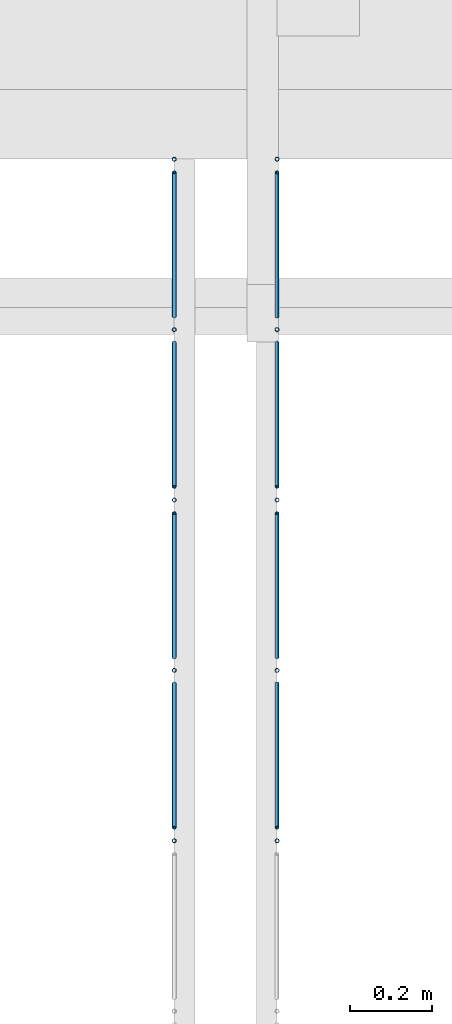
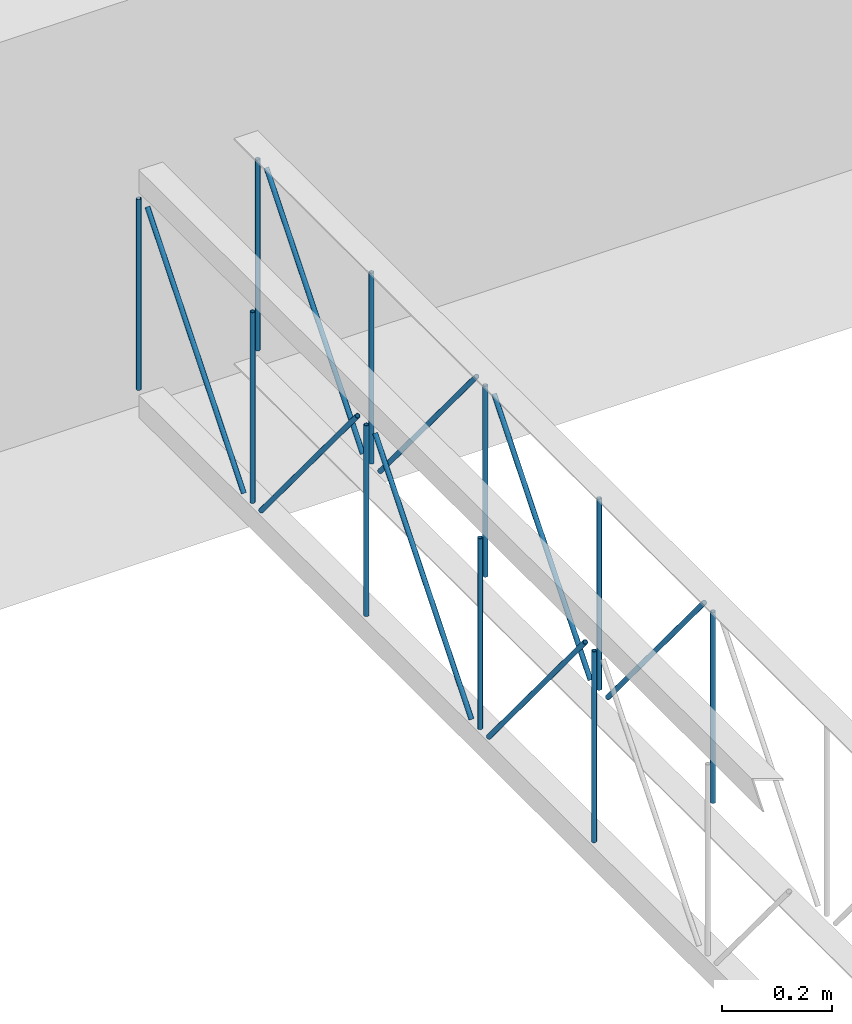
# One storey, part 92 of 153: 18 members, 2 elements without a shape of their own.
"""IFC4 building model written with IfcOpenShell, lengths in metres."""

import ifcopenshell
import ifcopenshell.guid

model = None  # the IFC model being written
_history = None  # IfcOwnerHistory: only IFC2X3 demands one
_inside = {}  # id of a spatial element -> (the spatial element, [elements in it])
_under = {}  # id of a project, library or spatial element -> (it, [spatial elements below it])
_declared = {}  # id of a project -> (the project, [libraries it declares])
_typed = {}  # id of a type object -> (the type object, [elements of that type])
_made_of = {}  # id of a material, layer set ... -> (it, [elements and type objects made of it])


def new_model(schema):
    """Start an empty IFC model of exactly this schema.

    Asked for "IFC4X3", IfcOpenShell would pick the latest addendum, in which some entities
    have other attributes; the version numbers below select the first issue.
    IFC2X3 requires an IfcOwnerHistory on every rooted entity: one is made here for all.
    """
    global model, _history
    if schema == "IFC4X3":
        model = ifcopenshell.file(schema_version=(4, 3, 0, 0))
    else:
        model = ifcopenshell.file(schema=schema)
    _inside.clear()
    _under.clear()
    _declared.clear()
    _typed.clear()
    _made_of.clear()
    _history = None
    if model.schema == "IFC2X3":
        org = make("IfcOrganization", Name="unknown")
        user = make(
            "IfcPersonAndOrganization",
            ThePerson=make("IfcPerson", FamilyName="unknown"),
            TheOrganization=org,
        )
        app = make(
            "IfcApplication",
            ApplicationDeveloper=org,
            Version="unknown",
            ApplicationFullName="unknown",
            ApplicationIdentifier="unknown",
        )
        _history = make(
            "IfcOwnerHistory",
            OwningUser=user,
            OwningApplication=app,
            ChangeAction="ADDED",
            CreationDate=0,
        )
    return model


def make(cls, **values):
    """One entity of the class cls with the attributes given. An attribute that is None is left unset."""
    return model.create_entity(
        cls, **{name: value for name, value in values.items() if value is not None}
    )


def entity(cls, *values):
    """Any entity or typed value of the class cls, its attributes in the order of the schema. None: left unset."""
    e = model.create_entity(cls)
    for i, value in enumerate(values):
        if value is not None:
            e[i] = value
    return e


def rooted(cls, **values):
    """An entity with a GlobalId (a new one), such as an element, a storey or a relation."""
    return make(cls, GlobalId=ifcopenshell.guid.new(), OwnerHistory=_history, **values)


def si_unit(unit_type, name, prefix=None):
    """IfcSIUnit, for example si_unit("LENGTHUNIT", "METRE", prefix="MILLI")."""
    return make("IfcSIUnit", UnitType=unit_type, Prefix=prefix, Name=name)


def converted_unit(unit_type, name, factor, base, dimensions=None, offset=None):
    """IfcConversionBasedUnit, such as the inch: factor (a typed value) times the base unit."""
    return make(
        "IfcConversionBasedUnit"
        if offset is None
        else "IfcConversionBasedUnitWithOffset",
        ConversionOffset=offset,
        Dimensions=None
        if dimensions is None
        else entity("IfcDimensionalExponents", *dimensions),
        UnitType=unit_type,
        Name=name,
        ConversionFactor=make(
            "IfcMeasureWithUnit", ValueComponent=factor, UnitComponent=base
        ),
    )


def derived_unit(unit_type, elements):
    """IfcDerivedUnit: a product of units, each with its exponent."""
    return make(
        "IfcDerivedUnit",
        Elements=[
            make("IfcDerivedUnitElement", Unit=unit, Exponent=power)
            for unit, power in elements
        ],
        UnitType=unit_type,
    )


def assignment(units):
    """IfcUnitAssignment: the units of a project."""
    return None if units is None else make("IfcUnitAssignment", Units=units)


def point(xyz):
    """IfcCartesianPoint."""
    return None if xyz is None else make("IfcCartesianPoint", Coordinates=xyz)


def direction(xyz):
    """IfcDirection."""
    return None if xyz is None else make("IfcDirection", DirectionRatios=xyz)


def frame(location, z_axis=None, x_axis=None):
    """IfcAxis2Placement3D, a coordinate frame: its origin and axes. An axis left out is left unset."""
    return make(
        "IfcAxis2Placement3D",
        Location=point(location),
        Axis=direction(z_axis),
        RefDirection=direction(x_axis),
    )


def origin():
    """The frame at (0, 0, 0) with its axes left unset."""
    return frame((0.0, 0.0, 0.0))


def place(relative_to, where):
    """IfcLocalPlacement: puts the frame where relative to a parent placement (None: the world)."""
    return make(
        "IfcLocalPlacement", PlacementRelTo=relative_to, RelativePlacement=where
    )


def context(
    kind, dimensions, precision=None, world=None, true_north=None, identifier=None
):
    """IfcGeometricRepresentationContext, for example the 3D "Model" context."""
    return make(
        "IfcGeometricRepresentationContext",
        ContextIdentifier=identifier,
        ContextType=kind,
        CoordinateSpaceDimension=dimensions,
        Precision=precision,
        WorldCoordinateSystem=world,
        TrueNorth=true_north,
    )


def subcontext(parent, identifier, kind, view, scale=None):
    """IfcGeometricRepresentationSubContext, for example "Body" below "Model"."""
    return make(
        "IfcGeometricRepresentationSubContext",
        ContextIdentifier=identifier,
        ContextType=kind,
        ParentContext=parent,
        TargetScale=scale,
        TargetView=view,
    )


def project(units=None, contexts=None):
    """IfcProject with its units and contexts."""
    return rooted(
        "IfcProject",
        Name="project",
        RepresentationContexts=contexts,
        UnitsInContext=assignment(units),
    )


def spatial(cls, under=None, at=None, **own):
    """A site, building, storey or space (cls), placed at a placement, below another one or the project."""
    s = rooted(cls, ObjectPlacement=at, **own)
    if under is not None:
        _under.setdefault(under.id(), (under, []))[1].append(s)
    return s


def point_list(points):
    """IfcCartesianPointList2D or 3D."""
    cls = (
        "IfcCartesianPointList2D" if len(points[0]) == 2 else "IfcCartesianPointList3D"
    )
    return make(cls, CoordList=points)


def arc(*indices):
    """IfcArcIndex: an arc through three numbered points of an indexed curve."""
    return model.create_entity("IfcArcIndex", indices)


def indexed_curve(points, segments=None, self_intersect=None):
    """IfcIndexedPolyCurve: lines and arcs through numbered points (the first is 1)."""
    return make(
        "IfcIndexedPolyCurve",
        Points=point_list(points),
        Segments=segments,
        SelfIntersect=self_intersect,
    )


def outline(outer, holes=None, kind="AREA"):
    """IfcArbitraryClosedProfileDef: a profile drawn as a closed curve; with holes, ...WithVoids."""
    if holes is None:
        return make("IfcArbitraryClosedProfileDef", ProfileType=kind, OuterCurve=outer)
    return make(
        "IfcArbitraryProfileDefWithVoids",
        ProfileType=kind,
        OuterCurve=outer,
        InnerCurves=holes,
    )


def extrude(swept, where, along, depth):
    """IfcExtrudedAreaSolid: the profile swept, set in the frame where, extruded along a direction by depth."""
    return make(
        "IfcExtrudedAreaSolid",
        SweptArea=swept,
        Position=where,
        ExtrudedDirection=direction(along),
        Depth=depth,
    )


def shape(context_of_items, identifier, shape_type, items):
    """IfcShapeRepresentation: the items that make up one representation, for example the "Body"."""
    return make(
        "IfcShapeRepresentation",
        ContextOfItems=context_of_items,
        RepresentationIdentifier=identifier,
        RepresentationType=shape_type,
        Items=items,
    )


def source(mapping_origin, context_of_items, identifier, shape_type, items):
    """IfcRepresentationMap: a shape defined once, which mapped items show again and again."""
    return make(
        "IfcRepresentationMap",
        MappingOrigin=mapping_origin,
        MappedRepresentation=shape(context_of_items, identifier, shape_type, items),
    )


def transform(
    local_origin,
    x_axis=None,
    y_axis=None,
    z_axis=None,
    scale=None,
    scale2=None,
    scale3=None,
    uniform=True,
):
    """IfcCartesianTransformationOperator3D, or its non-uniform kind. x_axis, y_axis, z_axis: its Axis1, 2, 3."""
    if uniform:
        return make(
            "IfcCartesianTransformationOperator3D",
            Axis1=direction(x_axis),
            Axis2=direction(y_axis),
            LocalOrigin=point(local_origin),
            Scale=scale,
            Axis3=direction(z_axis),
        )
    return make(
        "IfcCartesianTransformationOperator3DnonUniform",
        Axis1=direction(x_axis),
        Axis2=direction(y_axis),
        LocalOrigin=point(local_origin),
        Scale=scale,
        Axis3=direction(z_axis),
        Scale2=scale2,
        Scale3=scale3,
    )


def mapped(mapping_source, mapping_target):
    """IfcMappedItem: shows the shape of a source again, moved by a transform."""
    return make(
        "IfcMappedItem", MappingSource=mapping_source, MappingTarget=mapping_target
    )


def material(Name=None, Category=None):
    """IfcMaterial."""
    return make("IfcMaterial", Name=Name, Category=Category)


def made_of(thing, what):
    """Note that an element or type object is made of a material, layer set ...; save() writes the relation."""
    if what is not None:
        _made_of.setdefault(what.id(), (what, []))[1].append(thing)
    return thing


def type_object(cls, material=None, **own):
    """A type object (cls), such as IfcWallType, which elements share."""
    return made_of(rooted(cls, **own), material)


def type_shapes(of_type, sources):
    """Give a type object the sources (RepresentationMaps) that its elements show as mapped items."""
    of_type.RepresentationMaps = sources


def element(
    cls,
    number,
    at=None,
    inside=None,
    cuts=None,
    type_object=None,
    material=None,
    context=None,
    identifier="Body",
    shape_type=None,
    held_by="IfcProductDefinitionShape",
    body=None,
    shapes=None,
    **own,
):
    """One element of the class cls, such as IfcWall. Its Tag is "e" and its number.

    at: its placement. inside: the storey or other place that contains it. cuts: it is an
    opening in that element (IfcRelVoidsElement). A single representation is given by context,
    identifier, shape_type and body (its items); several are given by shapes. held_by: the class
    of the entity that holds the representations. save() writes the other relations.
    """
    e = rooted(cls, Tag="e%d" % number, ObjectPlacement=at, **own)
    if body is not None:
        shapes = [shape(context, identifier, shape_type, body)]
    if shapes is not None:
        e.Representation = make(held_by, Representations=shapes)
    if inside is not None:
        _inside.setdefault(inside.id(), (inside, []))[1].append(e)
    if cuts is not None:
        rooted(
            "IfcRelVoidsElement", RelatingBuildingElement=cuts, RelatedOpeningElement=e
        )
    if type_object is not None:
        _typed.setdefault(type_object.id(), (type_object, []))[1].append(e)
    return made_of(e, material)


def aggregate(whole, parts):
    """IfcRelAggregates: a whole, such as a stair, and the parts it consists of."""
    return rooted("IfcRelAggregates", RelatingObject=whole, RelatedObjects=parts)


def save(model, path):
    """Write the relations noted so far, then the file.

    IfcRelAggregates (storeys below a building ...), IfcRelContainedInSpatialStructure (elements
    in a storey), IfcRelDefinesByType, IfcRelAssociatesMaterial and IfcRelDeclares: one each for
    every whole, place, type object, material and project.
    """
    for whole, parts in _under.values():
        aggregate(whole, parts)
    for where, things in _inside.values():
        rooted(
            "IfcRelContainedInSpatialStructure",
            RelatedElements=things,
            RelatingStructure=where,
        )
    for kind, things in _typed.values():
        rooted("IfcRelDefinesByType", RelatedObjects=things, RelatingType=kind)
    for what, things in _made_of.values():
        rooted("IfcRelAssociatesMaterial", RelatedObjects=things, RelatingMaterial=what)
    for by, libraries in _declared.values():
        rooted("IfcRelDeclares", RelatingContext=by, RelatedDefinitions=libraries)
    model.write(path)


model = new_model("IFC4")

# Units and contexts
model_context = context("Model", 3, precision=1e-05, world=origin(), true_north=direction((6.123031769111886e-17, 1.0)))
body_context = subcontext(model_context, "Body", "Model", "MODEL_VIEW")
ifc_project = project(units=[si_unit("LENGTHUNIT", "METRE"), si_unit("AREAUNIT", "SQUARE_METRE"), si_unit("VOLUMEUNIT", "CUBIC_METRE"), converted_unit("PLANEANGLEUNIT", "DEGREE", entity("IfcRatioMeasure", 0.017453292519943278), si_unit("PLANEANGLEUNIT", "RADIAN"), dimensions=[0, 0, 0, 0, 0, 0, 0]), si_unit("MASSUNIT", "GRAM", prefix="KILO"), derived_unit("MASSDENSITYUNIT", [(si_unit("MASSUNIT", "GRAM", prefix="KILO"), 1), (si_unit("LENGTHUNIT", "METRE"), -3)]), derived_unit("MOMENTOFINERTIAUNIT", [(si_unit("LENGTHUNIT", "METRE"), 4)]), si_unit("TIMEUNIT", "SECOND"), si_unit("FREQUENCYUNIT", "HERTZ"), si_unit("THERMODYNAMICTEMPERATUREUNIT", "DEGREE_CELSIUS"), derived_unit("THERMALTRANSMITTANCEUNIT", [(si_unit("MASSUNIT", "GRAM", prefix="KILO"), 1), (si_unit("THERMODYNAMICTEMPERATUREUNIT", "KELVIN"), -1), (si_unit("TIMEUNIT", "SECOND"), -3)]), derived_unit("VOLUMETRICFLOWRATEUNIT", [(si_unit("LENGTHUNIT", "METRE"), 3), (si_unit("TIMEUNIT", "SECOND"), -1)]), derived_unit("MASSFLOWRATEUNIT", [(si_unit("MASSUNIT", "GRAM", prefix="KILO"), 1), (si_unit("TIMEUNIT", "SECOND"), -1)]), derived_unit("ROTATIONALFREQUENCYUNIT", [(si_unit("TIMEUNIT", "SECOND"), -1)]), si_unit("ELECTRICCURRENTUNIT", "AMPERE"), si_unit("ELECTRICVOLTAGEUNIT", "VOLT"), si_unit("POWERUNIT", "WATT"), si_unit("FORCEUNIT", "NEWTON", prefix="KILO"), si_unit("ILLUMINANCEUNIT", "LUX"), si_unit("LUMINOUSFLUXUNIT", "LUMEN"), si_unit("LUMINOUSINTENSITYUNIT", "CANDELA"), derived_unit("USERDEFINED", [(si_unit("MASSUNIT", "GRAM", prefix="KILO"), -1), (si_unit("LENGTHUNIT", "METRE"), -2), (si_unit("TIMEUNIT", "SECOND"), 3), (si_unit("LUMINOUSFLUXUNIT", "LUMEN"), 1)]), derived_unit("SOUNDPOWERUNIT", [(si_unit("MASSUNIT", "GRAM", prefix="KILO"), 1), (si_unit("LENGTHUNIT", "METRE"), 2), (si_unit("TIMEUNIT", "SECOND"), -3)]), derived_unit("SOUNDPRESSUREUNIT", [(si_unit("MASSUNIT", "GRAM", prefix="KILO"), 1), (si_unit("LENGTHUNIT", "METRE"), -1), (si_unit("TIMEUNIT", "SECOND"), -2)]), derived_unit("LINEARVELOCITYUNIT", [(si_unit("LENGTHUNIT", "METRE"), 1), (si_unit("TIMEUNIT", "SECOND"), -1)]), si_unit("PRESSUREUNIT", "PASCAL"), derived_unit("USERDEFINED", [(si_unit("LENGTHUNIT", "METRE"), -2), (si_unit("MASSUNIT", "GRAM", prefix="KILO"), 1), (si_unit("TIMEUNIT", "SECOND"), -2)]), derived_unit("LINEARFORCEUNIT", [(si_unit("MASSUNIT", "GRAM", prefix="KILO"), 1), (si_unit("LENGTHUNIT", "METRE"), 1), (si_unit("TIMEUNIT", "SECOND"), -2), (si_unit("LENGTHUNIT", "METRE"), -1)]), derived_unit("PLANARFORCEUNIT", [(si_unit("MASSUNIT", "GRAM", prefix="KILO"), 1), (si_unit("LENGTHUNIT", "METRE"), 1), (si_unit("TIMEUNIT", "SECOND"), -2), (si_unit("LENGTHUNIT", "METRE"), -2)])], contexts=[model_context])

# Site, building, storey
site_placement = place(None, origin())
site = spatial("IfcSite", under=ifc_project, at=site_placement, Name="Superficie", CompositionType="ELEMENT")
building_placement = place(site_placement, origin())
building = spatial("IfcBuilding", under=site, at=building_placement, CompositionType="ELEMENT")
storey_placement = place(building_placement, frame((0.0, 0.0, 3.5999999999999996)))
storey = spatial("IfcBuildingStorey", under=building, at=storey_placement, Name="Nivel 1", CompositionType="ELEMENT", Elevation=3.5999999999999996)

# Assembly, members
assembly_1_placement = place(storey_placement, origin())
assembly_1 = element("IfcElementAssembly", 1, at=assembly_1_placement, inside=storey, Name="Viga de celosia 13:Viga de celosia 13", ObjectType="Viga de celosia 13:Viga de celosia 13", AssemblyPlace="NOTDEFINED", PredefinedType="TRUSS")
ifc_material = material(Name="Metal - Calibre delgado", Category="Metal")
member_type_1 = type_object("IfcMemberType", Name="HSS-Tubo estructural redondo:HSS 0.01", PredefinedType="BRACE", material=ifc_material)
shared_shape_1 = source(origin(), body_context, "Body", "SweptSolid", [
    extrude(outline(indexed_curve([(-0.005000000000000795, 7.502054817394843e-18), (-9.800269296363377e-18, -0.005000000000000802), (0.005000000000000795, -7.502054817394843e-18), (8.07772287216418e-18, 0.005000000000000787)], segments=[arc(1, 2, 3), arc(3, 4, 1)], self_intersect=False), holes=[indexed_curve([(0.003999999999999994, 7.222511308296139e-17), (6.910645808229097e-17, -0.004000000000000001), (-0.003999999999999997, -1.8650054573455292e-17), (-2.9156497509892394e-17, 0.003999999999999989)], segments=[arc(1, 2, 3), arc(3, 4, 1)], self_intersect=False)]), frame((-0.21200000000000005, 0.0, 0.0), z_axis=(1.0, 0.0, 0.0), x_axis=(0.0, 1.0, 0.0)), (0.0, 0.0, 1.0), 0.4240000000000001),
])
type_shapes(member_type_1, [shared_shape_1])
member_1_placement = place(assembly_1_placement, frame((5.936799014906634, -4.990991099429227, 0.25), z_axis=(0.0, 1.0, 0.0), x_axis=(0.0, 0.0, 1.0)))
member_1 = element("IfcMember", 2, at=member_1_placement, type_object=member_type_1, material=ifc_material, Name="HSS-Tubo estructural redondo:HSS 0.01", ObjectType="HSS-Tubo estructural redondo:HSS 0.01", PredefinedType="BRACE", context=body_context, shape_type="MappedRepresentation", body=[
    mapped(shared_shape_1, transform((0.0, 0.0, 0.0), scale=1.0)),
])
member_2_placement = place(assembly_1_placement, frame((5.936799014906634, -4.576645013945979, 0.25), z_axis=(0.0, 1.0, 0.0), x_axis=(0.0, 0.0, 1.0)))
member_2 = element("IfcMember", 3, at=member_2_placement, type_object=member_type_1, material=ifc_material, Name="HSS-Tubo estructural redondo:HSS 0.01", ObjectType="HSS-Tubo estructural redondo:HSS 0.01", PredefinedType="BRACE", context=body_context, shape_type="MappedRepresentation", body=[
    mapped(shared_shape_1, transform((0.0, 0.0, 0.0), scale=1.0)),
])
member_3_placement = place(assembly_1_placement, frame((5.936799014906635, -4.162298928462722, 0.25), z_axis=(0.0, 1.0, 0.0), x_axis=(0.0, 0.0, 1.0)))
member_3 = element("IfcMember", 4, at=member_3_placement, type_object=member_type_1, material=ifc_material, Name="HSS-Tubo estructural redondo:HSS 0.01", ObjectType="HSS-Tubo estructural redondo:HSS 0.01", PredefinedType="BRACE", context=body_context, shape_type="MappedRepresentation", body=[
    mapped(shared_shape_1, transform((0.0, 0.0, 0.0), scale=1.0)),
])
member_4_placement = place(assembly_1_placement, frame((5.936799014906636, -3.747952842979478, 0.25), z_axis=(0.0, 1.0, 0.0), x_axis=(0.0, 0.0, 1.0)))
member_4 = element("IfcMember", 5, at=member_4_placement, type_object=member_type_1, material=ifc_material, Name="HSS-Tubo estructural redondo:HSS 0.01", ObjectType="HSS-Tubo estructural redondo:HSS 0.01", PredefinedType="BRACE", context=body_context, shape_type="MappedRepresentation", body=[
    mapped(shared_shape_1, transform((0.0, 0.0, 0.0), scale=1.0)),
])
member_5_placement = place(assembly_1_placement, frame((5.936799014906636, -3.3336067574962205, 0.25), z_axis=(0.0, 1.0, 0.0), x_axis=(0.0, 0.0, 1.0)))
member_5 = element("IfcMember", 6, at=member_5_placement, type_object=member_type_1, material=ifc_material, Name="HSS-Tubo estructural redondo:HSS 0.01", ObjectType="HSS-Tubo estructural redondo:HSS 0.01", PredefinedType="BRACE", context=body_context, shape_type="MappedRepresentation", body=[
    mapped(shared_shape_1, transform((0.0, 0.0, 0.0), scale=1.0)),
])
member_type_2 = type_object("IfcMemberType", Name="HSS-Tubo estructural redondo:HSS 0.01", PredefinedType="BRACE", material=ifc_material)
shared_shape_2 = source(origin(), body_context, "Body", "SweptSolid", [
    extrude(outline(indexed_curve([(-0.005000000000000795, 7.502054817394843e-18), (-9.800269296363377e-18, -0.005000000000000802), (0.005000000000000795, -7.502054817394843e-18), (8.07772287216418e-18, 0.005000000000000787)], segments=[arc(1, 2, 3), arc(3, 4, 1)], self_intersect=False), holes=[indexed_curve([(0.003999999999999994, 7.222511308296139e-17), (6.910645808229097e-17, -0.004000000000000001), (-0.003999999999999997, -1.8650054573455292e-17), (-2.9156497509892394e-17, 0.003999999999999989)], segments=[arc(1, 2, 3), arc(3, 4, 1)], self_intersect=False)]), frame((-0.275, 0.0, 0.0), z_axis=(1.0, 0.0, 0.0), x_axis=(0.0, 1.0, 0.0)), (0.0, 0.0, 1.0), 0.55),
])
type_shapes(member_type_2, [shared_shape_2])
member_6_placement = place(assembly_1_placement, frame((5.936799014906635, -4.783818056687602, 0.25), z_axis=(0.0, -0.7699758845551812, -0.6380729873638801), x_axis=(0.0, 0.6380729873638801, -0.7699758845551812)))
member_6 = element("IfcMember", 7, at=member_6_placement, type_object=member_type_2, material=ifc_material, Name="HSS-Tubo estructural redondo:HSS 0.01", ObjectType="HSS-Tubo estructural redondo:HSS 0.01", PredefinedType="BRACE", context=body_context, shape_type="MappedRepresentation", body=[
    mapped(shared_shape_2, transform((0.0, 0.0, 0.0), scale=1.0)),
])
member_7_placement = place(assembly_1_placement, frame((5.936799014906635, -4.369471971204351, 0.2500000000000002), z_axis=(0.0, 0.7699758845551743, -0.6380729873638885), x_axis=(0.0, 0.6380729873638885, 0.7699758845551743)))
member_7 = element("IfcMember", 8, at=member_7_placement, type_object=member_type_2, material=ifc_material, Name="HSS-Tubo estructural redondo:HSS 0.01", ObjectType="HSS-Tubo estructural redondo:HSS 0.01", PredefinedType="BRACE", context=body_context, shape_type="MappedRepresentation", body=[
    mapped(shared_shape_2, transform((0.0, 0.0, 0.0), scale=1.0)),
])
member_8_placement = place(assembly_1_placement, frame((5.936799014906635, -3.9551258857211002, 0.24999999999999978), z_axis=(0.0, -0.7699758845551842, -0.6380729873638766), x_axis=(0.0, 0.6380729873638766, -0.7699758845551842)))
member_8 = element("IfcMember", 9, at=member_8_placement, type_object=member_type_2, material=ifc_material, Name="HSS-Tubo estructural redondo:HSS 0.01", ObjectType="HSS-Tubo estructural redondo:HSS 0.01", PredefinedType="BRACE", context=body_context, shape_type="MappedRepresentation", body=[
    mapped(shared_shape_2, transform((0.0, 0.0, 0.0), scale=1.0)),
])
member_9_placement = place(assembly_1_placement, frame((5.936799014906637, -3.540779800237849, 0.2500000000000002), z_axis=(0.0, 0.7699758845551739, -0.638072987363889), x_axis=(0.0, 0.638072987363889, 0.7699758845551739)))
member_9 = element("IfcMember", 10, at=member_9_placement, type_object=member_type_2, material=ifc_material, Name="HSS-Tubo estructural redondo:HSS 0.01", ObjectType="HSS-Tubo estructural redondo:HSS 0.01", PredefinedType="BRACE", context=body_context, shape_type="MappedRepresentation", body=[
    mapped(shared_shape_2, transform((0.0, 0.0, 0.0), scale=1.0)),
])
aggregate(assembly_1, [member_1, member_2, member_3, member_4, member_5, member_6, member_7, member_8, member_9])

assembly_2_placement = place(storey_placement, origin())
assembly_2 = element("IfcElementAssembly", 11, at=assembly_2_placement, inside=storey, Name="Viga de celosia 13:Viga de celosia 13", ObjectType="Viga de celosia 13:Viga de celosia 13", AssemblyPlace="NOTDEFINED", PredefinedType="TRUSS")
member_type_3 = type_object("IfcMemberType", Name="HSS-Tubo estructural redondo:HSS 0.01", PredefinedType="BRACE", material=ifc_material)
shared_shape_3 = source(origin(), body_context, "Body", "SweptSolid", [
    extrude(outline(indexed_curve([(-0.005000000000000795, 2.0824731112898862e-17), (-2.3122945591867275e-17, -0.005000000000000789), (0.005000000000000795, -2.08247311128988e-17), (2.14003991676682e-17, 0.005000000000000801)], segments=[arc(1, 2, 3), arc(3, 4, 1)], self_intersect=False), holes=[indexed_curve([(0.003999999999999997, -1.3094283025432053e-17), (-1.531427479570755e-18, -0.003999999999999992), (-0.004, 4.0098531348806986e-17), (4.1481388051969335e-17, 0.0039999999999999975)], segments=[arc(1, 2, 3), arc(3, 4, 1)], self_intersect=False)]), frame((-0.21200000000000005, 0.0, 0.0), z_axis=(1.0, 0.0, 0.0), x_axis=(0.0, -1.0, 0.0)), (0.0, 0.0, 1.0), 0.4240000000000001),
])
type_shapes(member_type_3, [shared_shape_3])
member_10_placement = place(assembly_2_placement, frame((6.186799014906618, -4.990991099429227, 0.25), z_axis=(0.0, 1.0, 0.0), x_axis=(0.0, 0.0, 1.0)))
member_10 = element("IfcMember", 12, at=member_10_placement, type_object=member_type_3, material=ifc_material, Name="HSS-Tubo estructural redondo:HSS 0.01", ObjectType="HSS-Tubo estructural redondo:HSS 0.01", PredefinedType="BRACE", context=body_context, shape_type="MappedRepresentation", body=[
    mapped(shared_shape_3, transform((0.0, 0.0, 0.0), scale=1.0)),
])
member_11_placement = place(assembly_2_placement, frame((6.186799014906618, -4.576645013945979, 0.25), z_axis=(0.0, 1.0, 0.0), x_axis=(0.0, 0.0, 1.0)))
member_11 = element("IfcMember", 13, at=member_11_placement, type_object=member_type_3, material=ifc_material, Name="HSS-Tubo estructural redondo:HSS 0.01", ObjectType="HSS-Tubo estructural redondo:HSS 0.01", PredefinedType="BRACE", context=body_context, shape_type="MappedRepresentation", body=[
    mapped(shared_shape_3, transform((0.0, 0.0, 0.0), scale=1.0)),
])
member_12_placement = place(assembly_2_placement, frame((6.186799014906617, -4.162298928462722, 0.25), z_axis=(0.0, 1.0, 0.0), x_axis=(0.0, 0.0, 1.0)))
member_12 = element("IfcMember", 14, at=member_12_placement, type_object=member_type_3, material=ifc_material, Name="HSS-Tubo estructural redondo:HSS 0.01", ObjectType="HSS-Tubo estructural redondo:HSS 0.01", PredefinedType="BRACE", context=body_context, shape_type="MappedRepresentation", body=[
    mapped(shared_shape_3, transform((0.0, 0.0, 0.0), scale=1.0)),
])
member_13_placement = place(assembly_2_placement, frame((6.186799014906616, -3.747952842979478, 0.25), z_axis=(0.0, 1.0, 0.0), x_axis=(0.0, 0.0, 1.0)))
member_13 = element("IfcMember", 15, at=member_13_placement, type_object=member_type_3, material=ifc_material, Name="HSS-Tubo estructural redondo:HSS 0.01", ObjectType="HSS-Tubo estructural redondo:HSS 0.01", PredefinedType="BRACE", context=body_context, shape_type="MappedRepresentation", body=[
    mapped(shared_shape_3, transform((0.0, 0.0, 0.0), scale=1.0)),
])
member_14_placement = place(assembly_2_placement, frame((6.186799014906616, -3.3336067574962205, 0.25), z_axis=(0.0, 1.0, 0.0), x_axis=(0.0, 0.0, 1.0)))
member_14 = element("IfcMember", 16, at=member_14_placement, type_object=member_type_3, material=ifc_material, Name="HSS-Tubo estructural redondo:HSS 0.01", ObjectType="HSS-Tubo estructural redondo:HSS 0.01", PredefinedType="BRACE", context=body_context, shape_type="MappedRepresentation", body=[
    mapped(shared_shape_3, transform((0.0, 0.0, 0.0), scale=1.0)),
])
member_type_4 = type_object("IfcMemberType", Name="HSS-Tubo estructural redondo:HSS 0.01", PredefinedType="BRACE", material=ifc_material)
shared_shape_4 = source(origin(), body_context, "Body", "SweptSolid", [
    extrude(outline(indexed_curve([(-0.005000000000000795, 2.0824731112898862e-17), (-2.3122945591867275e-17, -0.005000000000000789), (0.005000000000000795, -2.08247311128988e-17), (2.14003991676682e-17, 0.005000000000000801)], segments=[arc(1, 2, 3), arc(3, 4, 1)], self_intersect=False), holes=[indexed_curve([(0.003999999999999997, -1.3094283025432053e-17), (-1.531427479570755e-18, -0.003999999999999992), (-0.004, 4.0098531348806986e-17), (4.1481388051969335e-17, 0.0039999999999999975)], segments=[arc(1, 2, 3), arc(3, 4, 1)], self_intersect=False)]), frame((-0.275, 0.0, 0.0), z_axis=(1.0, 0.0, 0.0), x_axis=(0.0, -1.0, 0.0)), (0.0, 0.0, 1.0), 0.55),
])
type_shapes(member_type_4, [shared_shape_4])
member_15_placement = place(assembly_2_placement, frame((6.186799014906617, -4.783818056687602, 0.25), z_axis=(0.0, -0.7699758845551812, -0.6380729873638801), x_axis=(0.0, 0.6380729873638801, -0.7699758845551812)))
member_15 = element("IfcMember", 17, at=member_15_placement, type_object=member_type_4, material=ifc_material, Name="HSS-Tubo estructural redondo:HSS 0.01", ObjectType="HSS-Tubo estructural redondo:HSS 0.01", PredefinedType="BRACE", context=body_context, shape_type="MappedRepresentation", body=[
    mapped(shared_shape_4, transform((0.0, 0.0, 0.0), scale=1.0)),
])
member_16_placement = place(assembly_2_placement, frame((6.186799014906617, -4.369471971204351, 0.2500000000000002), z_axis=(0.0, 0.7699758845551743, -0.6380729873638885), x_axis=(0.0, 0.6380729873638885, 0.7699758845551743)))
member_16 = element("IfcMember", 18, at=member_16_placement, type_object=member_type_4, material=ifc_material, Name="HSS-Tubo estructural redondo:HSS 0.01", ObjectType="HSS-Tubo estructural redondo:HSS 0.01", PredefinedType="BRACE", context=body_context, shape_type="MappedRepresentation", body=[
    mapped(shared_shape_4, transform((0.0, 0.0, 0.0), scale=1.0)),
])
member_17_placement = place(assembly_2_placement, frame((6.186799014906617, -3.9551258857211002, 0.24999999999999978), z_axis=(0.0, -0.7699758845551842, -0.6380729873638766), x_axis=(0.0, 0.6380729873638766, -0.7699758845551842)))
member_17 = element("IfcMember", 19, at=member_17_placement, type_object=member_type_4, material=ifc_material, Name="HSS-Tubo estructural redondo:HSS 0.01", ObjectType="HSS-Tubo estructural redondo:HSS 0.01", PredefinedType="BRACE", context=body_context, shape_type="MappedRepresentation", body=[
    mapped(shared_shape_4, transform((0.0, 0.0, 0.0), scale=1.0)),
])
member_18_placement = place(assembly_2_placement, frame((6.186799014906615, -3.540779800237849, 0.2500000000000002), z_axis=(0.0, 0.7699758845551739, -0.638072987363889), x_axis=(0.0, 0.638072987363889, 0.7699758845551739)))
member_18 = element("IfcMember", 20, at=member_18_placement, type_object=member_type_4, material=ifc_material, Name="HSS-Tubo estructural redondo:HSS 0.01", ObjectType="HSS-Tubo estructural redondo:HSS 0.01", PredefinedType="BRACE", context=body_context, shape_type="MappedRepresentation", body=[
    mapped(shared_shape_4, transform((0.0, 0.0, 0.0), scale=1.0)),
])
aggregate(assembly_2, [member_10, member_11, member_12, member_13, member_14, member_15, member_16, member_17, member_18])

save(model, "model.ifc")
